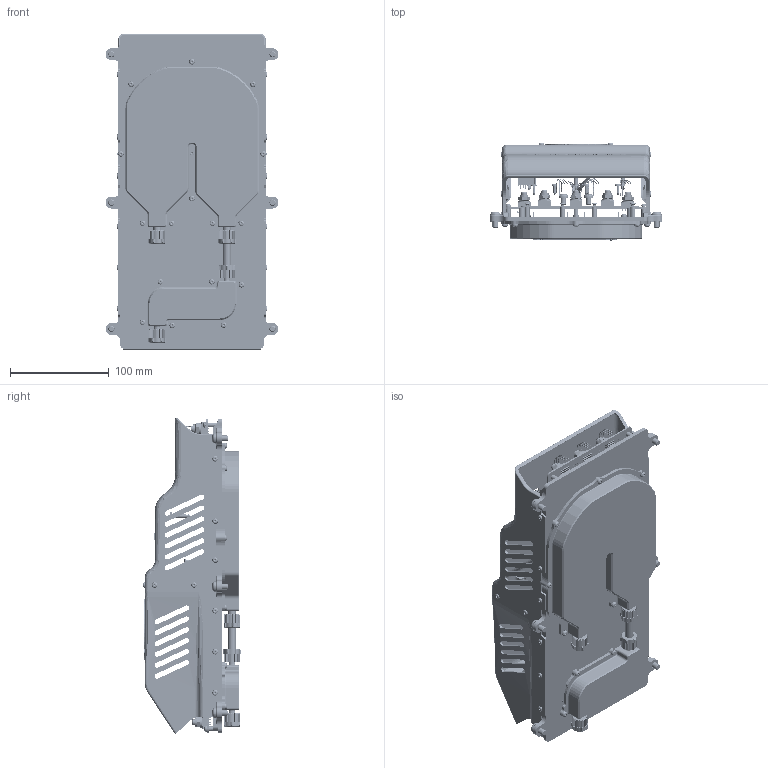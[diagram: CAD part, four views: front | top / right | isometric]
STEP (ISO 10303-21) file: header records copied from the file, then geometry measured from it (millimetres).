
FILE_DESCRIPTION(/* description */ ('','CAx-IF Rec.Pracs.---Representation and Presentation of Product Manufacturing Information (PMI)---4.0---2014-10-13'),/* implementation_level */ '2;1');
FILE_NAME(/* name */ 'C:\Releases\MC110\3d_MC110\INNER-201010_website\MC110 - 3d_MC110 - INNER - 201010.stp',/* time_stamp */ '2023-09-01T12:24:48+02:00',/* author */ ('jbs3'),/* organization */ (''),/* preprocessor_version */ 'ST-DEVELOPER v17',/* originating_system */ 'Autodesk Inventor 2018',/* authorisation */ '');
FILE_SCHEMA (('AP242_MANAGED_MODEL_BASED_3D_ENGINEERING_MIM_LF { 1 0 10303 442 1 1 4 }'));
Length unit declared in the file: millimetre
Products named in the file (1): 3d_MC110 - INNER
Bounding box: 175 x 99.13 x 320.52 mm (x, y, z)
Volume: 498364.4 mm3; surface area: 444727.5 mm2
Topology: 16 solids, 56 shells, 7262 faces, 17676 edges, 11392 vertices
Faces by surface type: plane 3973, cylinder 2180, bspline 444, cone 402, torus 258, sphere 5
Full cylindrical faces by diameter (mm): 1 x21, 1.5 x16, 1.508 x16, 1.6 x264, 1.635 x26, 1.8 x12, 2.013 x1, 2.175 x225, 2.212 x178, 2.459 x28, 2.5 x1, 2.7 x1, 2.8 x1, 2.9 x5, 3 x66, 3.073 x6, 3.2 x38, 3.242 x4, 3.5 x3, 3.962 x9, 4 x9, 4.5 x2, 5 x18, 5.3 x4, 5.7 x46, 5.842 x6, 6 x18, 6.4 x6, 6.5 x4, 6.75 x4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
Entity records: 240012 total; most frequent: CARTESIAN_POINT 61878, DIRECTION 35089, ORIENTED_EDGE 35072, EDGE_CURVE 17586, AXIS2_PLACEMENT_3D 12775, VERTEX_POINT 11392, LINE 9547, VECTOR 9547
